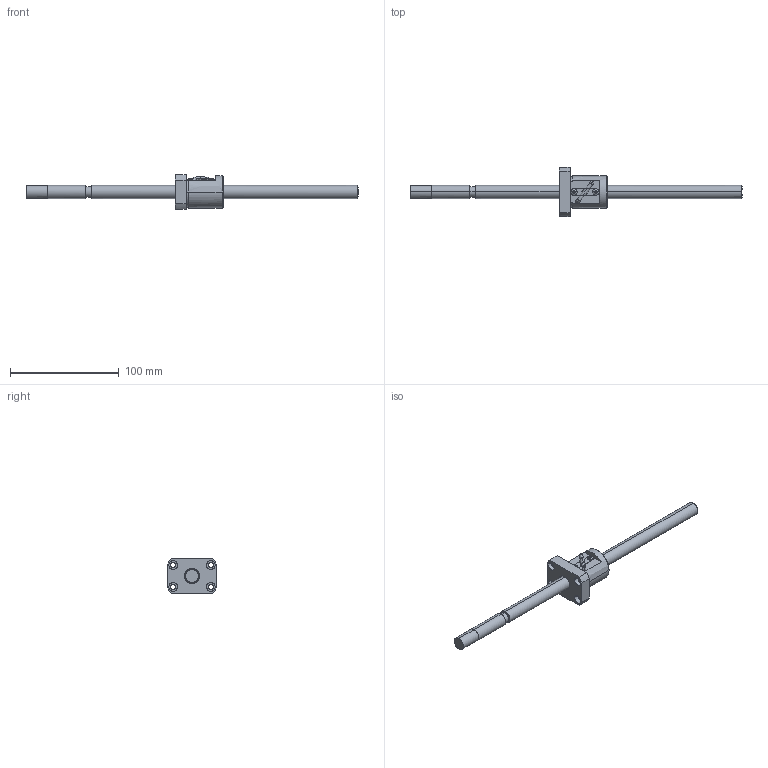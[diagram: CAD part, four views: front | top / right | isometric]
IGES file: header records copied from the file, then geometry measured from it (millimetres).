
Global section: file name: No Iges File Name specified; native system: AutoDesk Inventor R10; preprocessor: AutoDesk Inventor Iges Exporter R10; author: No Author specified; organization: No Organization specified; date: 20101224.140101; units: millimetre
Bounding box: 305 x 45 x 32 mm (x, y, z)
Surface area: 21795.4 mm2 (no closed solid volume)
Topology: 0 solids, 0 shells, 133 faces, 950 edges, 950 vertices
Faces by surface type: bspline 133
